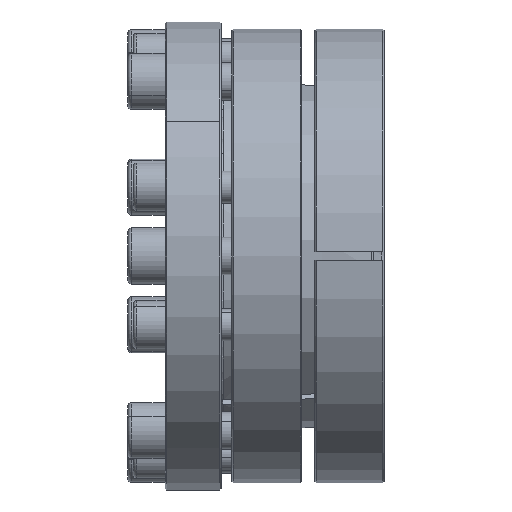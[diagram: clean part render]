
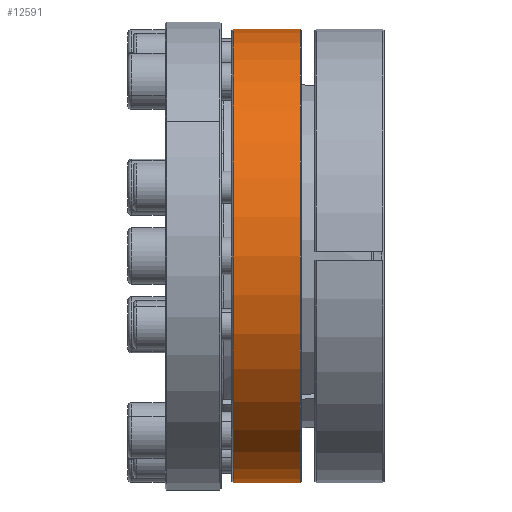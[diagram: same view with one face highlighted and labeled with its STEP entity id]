
A CAD part, left-side view. The second image highlights one B-rep face of the part: STEP entity #12591.
In plain terms, the highlighted cylindrical face has radius 85 mm (diameter 170 mm), a partial arc.
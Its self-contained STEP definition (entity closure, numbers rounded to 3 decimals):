
#180 = DIRECTION ( 'NONE',  ( 0., -1., 0. ) ) ;
#943 = CYLINDRICAL_SURFACE ( 'NONE', #14788, 85. ) ;
#1318 = EDGE_LOOP ( 'NONE', ( #9432, #5899, #20543, #7407 ) ) ;
#1835 = CIRCLE ( 'NONE', #19654, 85. ) ;
#2664 = VERTEX_POINT ( 'NONE', #9336 ) ;
#2688 = VERTEX_POINT ( 'NONE', #22581 ) ;
#2911 = CARTESIAN_POINT ( 'NONE',  ( 0., 31.501, 0. ) ) ;
#3353 = VECTOR ( 'NONE', #20817, 1000. ) ;
#4794 = DIRECTION ( 'NONE',  ( 0., 0., -1. ) ) ;
#5324 = EDGE_CURVE ( 'NONE', #15630, #2688, #1835, .T. ) ;
#5356 = LINE ( 'NONE', #13272, #19320 ) ;
#5899 = ORIENTED_EDGE ( 'NONE', *, *, #17760, .T. ) ;
#6497 = AXIS2_PLACEMENT_3D ( 'NONE', #11530, #180, #13439 ) ;
#6916 = EDGE_CURVE ( 'NONE', #24362, #2688, #17923, .T. ) ;
#7407 = ORIENTED_EDGE ( 'NONE', *, *, #6916, .F. ) ;
#7551 = CARTESIAN_POINT ( 'NONE',  ( 0., 31.001, 85. ) ) ;
#9336 = CARTESIAN_POINT ( 'NONE',  ( 0., 56.501, -85. ) ) ;
#9432 = ORIENTED_EDGE ( 'NONE', *, *, #15892, .T. ) ;
#10551 = CARTESIAN_POINT ( 'NONE',  ( 0., 31.501, -85. ) ) ;
#11530 = CARTESIAN_POINT ( 'NONE',  ( 0., 56.501, 0. ) ) ;
#11589 = DIRECTION ( 'NONE',  ( 0., 0., 1. ) ) ;
#12591 = ADVANCED_FACE ( 'NONE', ( #17876 ), #943, .T. ) ;
#13272 = CARTESIAN_POINT ( 'NONE',  ( 0., 31.001, -85. ) ) ;
#13418 = CARTESIAN_POINT ( 'NONE',  ( 0., 31.001, 0. ) ) ;
#13439 = DIRECTION ( 'NONE',  ( 0., 0., 1. ) ) ;
#14788 = AXIS2_PLACEMENT_3D ( 'NONE', #13418, #20949, #11589 ) ;
#15630 = VERTEX_POINT ( 'NONE', #10551 ) ;
#15892 = EDGE_CURVE ( 'NONE', #24362, #2664, #22448, .T. ) ;
#16193 = DIRECTION ( 'NONE',  ( 0., 1., 0. ) ) ;
#17760 = EDGE_CURVE ( 'NONE', #2664, #15630, #5356, .T. ) ;
#17876 = FACE_OUTER_BOUND ( 'NONE', #1318, .T. ) ;
#17923 = LINE ( 'NONE', #7551, #3353 ) ;
#19320 = VECTOR ( 'NONE', #22777, 1000. ) ;
#19654 = AXIS2_PLACEMENT_3D ( 'NONE', #2911, #16193, #4794 ) ;
#20543 = ORIENTED_EDGE ( 'NONE', *, *, #5324, .T. ) ;
#20817 = DIRECTION ( 'NONE',  ( 0., -1., 0. ) ) ;
#20949 = DIRECTION ( 'NONE',  ( 0., -1., 0. ) ) ;
#22448 = CIRCLE ( 'NONE', #6497, 85. ) ;
#22581 = CARTESIAN_POINT ( 'NONE',  ( 0., 31.501, 85. ) ) ;
#22777 = DIRECTION ( 'NONE',  ( 0., -1., 0. ) ) ;
#24362 = VERTEX_POINT ( 'NONE', #24507 ) ;
#24507 = CARTESIAN_POINT ( 'NONE',  ( 0., 56.501, 85. ) ) ;
